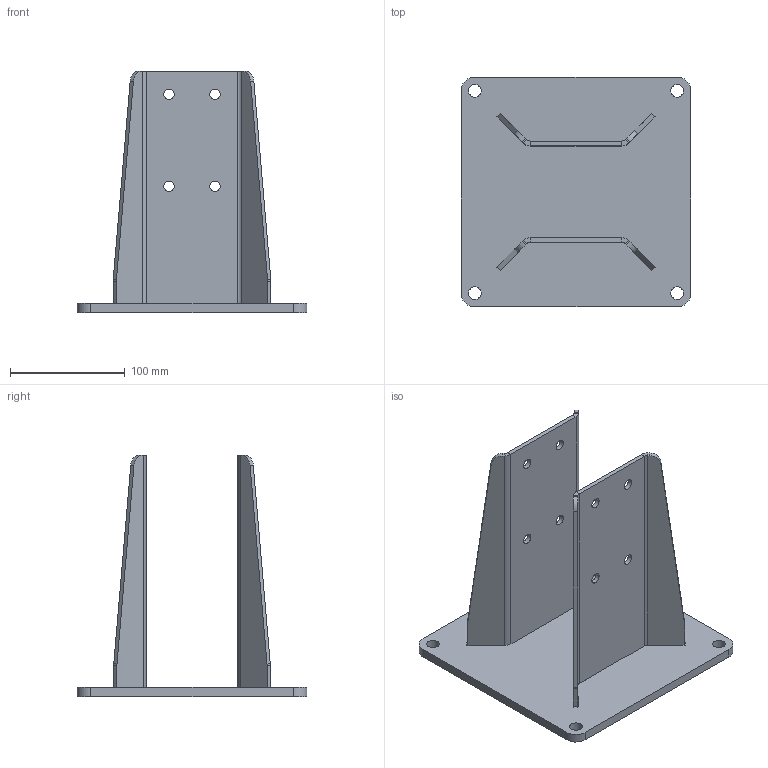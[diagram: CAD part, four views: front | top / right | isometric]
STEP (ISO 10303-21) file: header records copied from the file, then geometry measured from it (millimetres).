
FILE_DESCRIPTION(/* description */ ('FOOT FOR PROFILE 100-1030'),/* implementation_level */ '2;1');
FILE_NAME(/* name */ '\\carryline.intra\privat\users\mathias\Desktop\Tillfälliga filer\100-1131.stp',/* time_stamp */ '2018-11-19T08:55:58+01:00',/* author */ ('PL'),/* organization */ ('CARRYLINE'),/* preprocessor_version */ 'ST-DEVELOPER v17',/* originating_system */ 'Autodesk Inventor 2018',/* authorisation */ '');
FILE_SCHEMA (('AUTOMOTIVE_DESIGN { 1 0 10303 214 3 1 1 }'));
Length unit declared in the file: millimetre
Products named in the file (3): 100-1131; 16683_2; 16683_1
Assembly tree (3 placements, depth 2):
  100-1131
    16683_1  x2
    16683_2
Bounding box: 200 x 200 x 210 mm (x, y, z)
Volume: 530391.8 mm3; surface area: 203721.5 mm2
Topology: 3 solids, 3 shells, 134 faces, 364 edges, 236 vertices
Faces by surface type: plane 102, cylinder 32
Full cylindrical faces by diameter (mm): 9 x8, 11 x4
Entity records: 3033 total; most frequent: CARTESIAN_POINT 510, ORIENTED_EDGE 500, DIRECTION 490, EDGE_CURVE 250, LINE 202, VECTOR 202, VERTEX_POINT 164, AXIS2_PLACEMENT_3D 144
